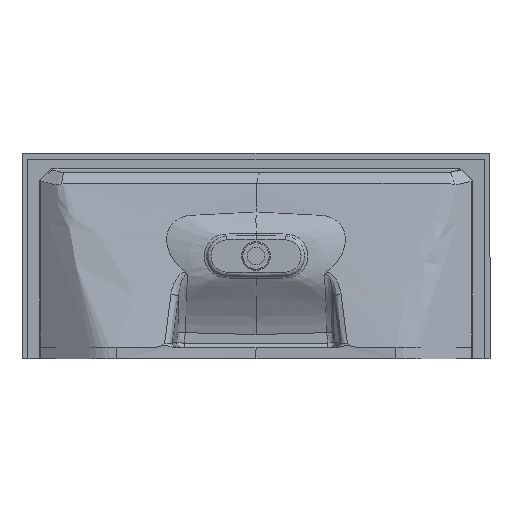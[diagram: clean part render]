
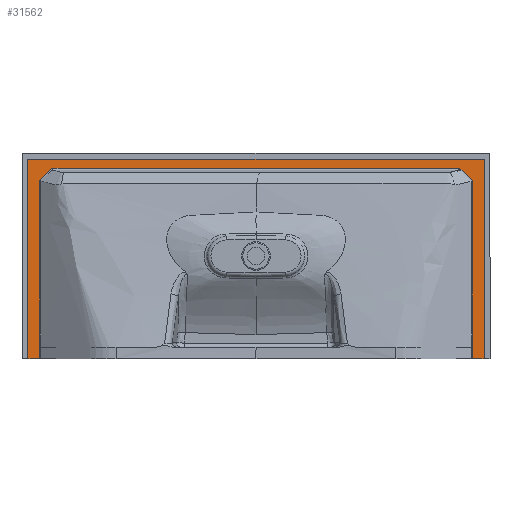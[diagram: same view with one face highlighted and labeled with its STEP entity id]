
A CAD part, front view. The second image highlights one B-rep face of the part: STEP entity #31562.
In plain terms, the highlighted planar face has unit normal (0, -1, 0).
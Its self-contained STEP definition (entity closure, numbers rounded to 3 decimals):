
#143 = CARTESIAN_POINT ( 'NONE',  ( -552.139, 837., 454.352 ) ) ;
#473 = B_SPLINE_CURVE_WITH_KNOTS ( 'NONE', 3,
 ( #17407, #38897, #33490, #33363, #4773, #29622, #17149, #20230, #23461, #10938, #18192, #14974, #38636 ),
 .UNSPECIFIED., .F., .F.,
 ( 4, 3, 3, 3, 4 ),
 ( 0., 0.001, 0.02, 0.033, 0.045 ),
 .UNSPECIFIED. ) ;
#634 = VECTOR ( 'NONE', #29758, 1000. ) ;
#794 = VECTOR ( 'NONE', #8885, 1000. ) ;
#947 = ORIENTED_EDGE ( 'NONE', *, *, #17797, .T. ) ;
#1115 = LINE ( 'NONE', #28471, #8293 ) ;
#1669 = DIRECTION ( 'NONE',  ( 1., 0., 0. ) ) ;
#1690 = ORIENTED_EDGE ( 'NONE', *, *, #21661, .T. ) ;
#1794 = CARTESIAN_POINT ( 'NONE',  ( 520.8, 837., 486.028 ) ) ;
#1816 = B_SPLINE_CURVE_WITH_KNOTS ( 'NONE', 3,
 ( #6973, #19335, #28601, #10176 ),
 .UNSPECIFIED., .F., .F.,
 ( 4, 4 ),
 ( 0., 0.424 ),
 .UNSPECIFIED. ) ;
#2593 = EDGE_LOOP ( 'NONE', ( #11679, #9043, #947, #30676, #16367, #10172, #37983, #16129, #6750, #1690, #3069, #36098 ) ) ;
#3069 = ORIENTED_EDGE ( 'NONE', *, *, #36441, .F. ) ;
#3538 = EDGE_CURVE ( 'NONE', #17796, #8254, #1115, .T. ) ;
#3909 = VERTEX_POINT ( 'NONE', #11508 ) ;
#4123 = VECTOR ( 'NONE', #5563, 1000. ) ;
#4317 = EDGE_CURVE ( 'NONE', #17796, #10597, #22745, .T. ) ;
#4773 = CARTESIAN_POINT ( 'NONE',  ( 525.645, 837., 481.129 ) ) ;
#5147 = CARTESIAN_POINT ( 'NONE',  ( -546.285, 837., 460.303 ) ) ;
#5540 = CARTESIAN_POINT ( 'NONE',  ( -528.271, 837., 478.585 ) ) ;
#5563 = DIRECTION ( 'NONE',  ( 0., 0., 1. ) ) ;
#6177 = CARTESIAN_POINT ( 'NONE',  ( -552.141, 837., 30. ) ) ;
#6649 = EDGE_CURVE ( 'NONE', #22183, #35548, #8786, .T. ) ;
#6750 = ORIENTED_EDGE ( 'NONE', *, *, #10531, .T. ) ;
#6766 = DIRECTION ( 'NONE',  ( 0., -1., 0. ) ) ;
#6973 = CARTESIAN_POINT ( 'NONE',  ( 552.139, 837., 454.307 ) ) ;
#7513 = AXIS2_PLACEMENT_3D ( 'NONE', #15918, #6766, #34296 ) ;
#8228 = CARTESIAN_POINT ( 'NONE',  ( -540.882, 837., 465.789 ) ) ;
#8254 = VERTEX_POINT ( 'NONE', #10611 ) ;
#8293 = VECTOR ( 'NONE', #37746, 1000. ) ;
#8621 = CARTESIAN_POINT ( 'NONE',  ( -551.987, 837., 454.506 ) ) ;
#8786 = LINE ( 'NONE', #23599, #634 ) ;
#8885 = DIRECTION ( 'NONE',  ( 1., 0., 0. ) ) ;
#9043 = ORIENTED_EDGE ( 'NONE', *, *, #3538, .T. ) ;
#10172 = ORIENTED_EDGE ( 'NONE', *, *, #17043, .T. ) ;
#10176 = CARTESIAN_POINT ( 'NONE',  ( 552.141, 837., 30. ) ) ;
#10531 = EDGE_CURVE ( 'NONE', #26886, #24490, #24842, .T. ) ;
#10597 = VERTEX_POINT ( 'NONE', #27302 ) ;
#10611 = CARTESIAN_POINT ( 'NONE',  ( -552.141, 837., 30. ) ) ;
#10781 = VECTOR ( 'NONE', #11775, 1000. ) ;
#10938 = CARTESIAN_POINT ( 'NONE',  ( 544.045, 837., 462.509 ) ) ;
#11274 = FACE_OUTER_BOUND ( 'NONE', #2593, .T. ) ;
#11508 = CARTESIAN_POINT ( 'NONE',  ( 582.5, 837., 510. ) ) ;
#11679 = ORIENTED_EDGE ( 'NONE', *, *, #4317, .F. ) ;
#11703 = CARTESIAN_POINT ( 'NONE',  ( -548.985, 837., 457.559 ) ) ;
#11775 = DIRECTION ( 'NONE',  ( 0., 0., -1. ) ) ;
#12245 = CARTESIAN_POINT ( 'NONE',  ( 582.5, 837., 0. ) ) ;
#13890 = CARTESIAN_POINT ( 'NONE',  ( -597.5, 837., 0. ) ) ;
#13894 = CARTESIAN_POINT ( 'NONE',  ( -552.139, 837., 454.352 ) ) ;
#14418 = CARTESIAN_POINT ( 'NONE',  ( -531.874, 837., 474.929 ) ) ;
#14974 = CARTESIAN_POINT ( 'NONE',  ( 549.442, 837., 457.041 ) ) ;
#15131 = DIRECTION ( 'NONE',  ( -1., 0., 0. ) ) ;
#15918 = CARTESIAN_POINT ( 'NONE',  ( 0., 837., 0. ) ) ;
#16110 = VECTOR ( 'NONE', #30147, 1000. ) ;
#16129 = ORIENTED_EDGE ( 'NONE', *, *, #34000, .T. ) ;
#16367 = ORIENTED_EDGE ( 'NONE', *, *, #6649, .T. ) ;
#16607 = VERTEX_POINT ( 'NONE', #17842 ) ;
#17043 = EDGE_CURVE ( 'NONE', #35548, #38537, #473, .T. ) ;
#17149 = CARTESIAN_POINT ( 'NONE',  ( 534.585, 837., 472.084 ) ) ;
#17407 = CARTESIAN_POINT ( 'NONE',  ( 520.8, 837., 486.028 ) ) ;
#17652 = CARTESIAN_POINT ( 'NONE',  ( -520.931, 837., 486.028 ) ) ;
#17796 = VERTEX_POINT ( 'NONE', #27673 ) ;
#17797 = EDGE_CURVE ( 'NONE', #8254, #32325, #37555, .T. ) ;
#17842 = CARTESIAN_POINT ( 'NONE',  ( 552.141, 837., 30. ) ) ;
#18192 = CARTESIAN_POINT ( 'NONE',  ( 546.744, 837., 459.776 ) ) ;
#18807 = CARTESIAN_POINT ( 'NONE',  ( -552.125, 837., 312.901 ) ) ;
#19335 = CARTESIAN_POINT ( 'NONE',  ( 552.125, 837., 312.871 ) ) ;
#20201 = CARTESIAN_POINT ( 'NONE',  ( 0., 837., 510. ) ) ;
#20230 = CARTESIAN_POINT ( 'NONE',  ( 537.738, 837., 468.892 ) ) ;
#20557 = EDGE_CURVE ( 'NONE', #32325, #22183, #38365, .T. ) ;
#20598 = CARTESIAN_POINT ( 'NONE',  ( -551.684, 837., 454.814 ) ) ;
#21104 = CARTESIAN_POINT ( 'NONE',  ( -582.5, 837., 510. ) ) ;
#21661 = EDGE_CURVE ( 'NONE', #24490, #3909, #37779, .T. ) ;
#22183 = VERTEX_POINT ( 'NONE', #27839 ) ;
#22745 = LINE ( 'NONE', #24539, #25641 ) ;
#23177 = CARTESIAN_POINT ( 'NONE',  ( -552.139, 837., 454.352 ) ) ;
#23461 = CARTESIAN_POINT ( 'NONE',  ( 540.893, 837., 465.701 ) ) ;
#23599 = CARTESIAN_POINT ( 'NONE',  ( 0., 837., 486.028 ) ) ;
#23856 = CARTESIAN_POINT ( 'NONE',  ( -582.5, 837., 0. ) ) ;
#23966 = CARTESIAN_POINT ( 'NONE',  ( -551.836, 837., 454.66 ) ) ;
#24269 = EDGE_CURVE ( 'NONE', #10597, #38839, #32953, .T. ) ;
#24490 = VERTEX_POINT ( 'NONE', #12245 ) ;
#24539 = CARTESIAN_POINT ( 'NONE',  ( 597.5, 837., 0. ) ) ;
#24842 = LINE ( 'NONE', #13890, #794 ) ;
#25224 = LINE ( 'NONE', #20201, #27133 ) ;
#25641 = VECTOR ( 'NONE', #15131, 1000. ) ;
#26053 = EDGE_CURVE ( 'NONE', #38537, #16607, #1816, .T. ) ;
#26643 = CARTESIAN_POINT ( 'NONE',  ( 552.139, 837., 454.307 ) ) ;
#26860 = CARTESIAN_POINT ( 'NONE',  ( 552.141, 837., 0. ) ) ;
#26886 = VERTEX_POINT ( 'NONE', #38325 ) ;
#27133 = VECTOR ( 'NONE', #1669, 1000. ) ;
#27302 = CARTESIAN_POINT ( 'NONE',  ( -582.5, 837., 0. ) ) ;
#27673 = CARTESIAN_POINT ( 'NONE',  ( -552.141, 837., 0. ) ) ;
#27839 = CARTESIAN_POINT ( 'NONE',  ( -520.931, 837., 486.028 ) ) ;
#28471 = CARTESIAN_POINT ( 'NONE',  ( -552.141, 837., 30. ) ) ;
#28601 = CARTESIAN_POINT ( 'NONE',  ( 552.158, 837., 171.436 ) ) ;
#29622 = CARTESIAN_POINT ( 'NONE',  ( 530.115, 837., 476.607 ) ) ;
#29758 = DIRECTION ( 'NONE',  ( 1., 0., 0. ) ) ;
#29999 = CARTESIAN_POINT ( 'NONE',  ( -524.667, 837., 482.24 ) ) ;
#30147 = DIRECTION ( 'NONE',  ( 0., 0., 1. ) ) ;
#30246 = CARTESIAN_POINT ( 'NONE',  ( -523.422, 837., 483.502 ) ) ;
#30676 = ORIENTED_EDGE ( 'NONE', *, *, #20557, .T. ) ;
#31562 = ADVANCED_FACE ( 'NONE', ( #11274 ), #34438, .T. ) ;
#32325 = VERTEX_POINT ( 'NONE', #23177 ) ;
#32682 = CARTESIAN_POINT ( 'NONE',  ( -522.177, 837., 484.765 ) ) ;
#32953 = LINE ( 'NONE', #23856, #4123 ) ;
#32975 = CARTESIAN_POINT ( 'NONE',  ( 582.5, 837., 0. ) ) ;
#33207 = CARTESIAN_POINT ( 'NONE',  ( -538.179, 837., 468.53 ) ) ;
#33363 = CARTESIAN_POINT ( 'NONE',  ( 521.174, 837., 485.65 ) ) ;
#33490 = CARTESIAN_POINT ( 'NONE',  ( 521.049, 837., 485.776 ) ) ;
#34000 = EDGE_CURVE ( 'NONE', #16607, #26886, #34317, .T. ) ;
#34296 = DIRECTION ( 'NONE',  ( 0., 0., -1. ) ) ;
#34317 = LINE ( 'NONE', #26860, #10781 ) ;
#34438 = PLANE ( 'NONE',  #7513 ) ;
#35548 = VERTEX_POINT ( 'NONE', #1794 ) ;
#36043 = CARTESIAN_POINT ( 'NONE',  ( -535.477, 837., 471.273 ) ) ;
#36098 = ORIENTED_EDGE ( 'NONE', *, *, #24269, .F. ) ;
#36441 = EDGE_CURVE ( 'NONE', #38839, #3909, #25224, .T. ) ;
#37216 = CARTESIAN_POINT ( 'NONE',  ( -552.158, 837., 171.451 ) ) ;
#37555 = B_SPLINE_CURVE_WITH_KNOTS ( 'NONE', 3,
 ( #6177, #37216, #18807, #143 ),
 .UNSPECIFIED., .F., .F.,
 ( 4, 4 ),
 ( 0., 0.424 ),
 .UNSPECIFIED. ) ;
#37746 = DIRECTION ( 'NONE',  ( 0., 0., 1. ) ) ;
#37779 = LINE ( 'NONE', #32975, #16110 ) ;
#37983 = ORIENTED_EDGE ( 'NONE', *, *, #26053, .T. ) ;
#38325 = CARTESIAN_POINT ( 'NONE',  ( 552.141, 837., 0. ) ) ;
#38365 = B_SPLINE_CURVE_WITH_KNOTS ( 'NONE', 3,
 ( #13894, #8621, #23966, #20598, #11703, #5147, #39401, #8228, #33207, #36043, #14418, #5540, #29999, #30246, #32682, #17652 ),
 .UNSPECIFIED., .F., .F.,
 ( 4, 3, 3, 3, 3, 4 ),
 ( 0., 0.001, 0.012, 0.024, 0.039, 0.044 ),
 .UNSPECIFIED. ) ;
#38537 = VERTEX_POINT ( 'NONE', #26643 ) ;
#38636 = CARTESIAN_POINT ( 'NONE',  ( 552.139, 837., 454.307 ) ) ;
#38839 = VERTEX_POINT ( 'NONE', #21104 ) ;
#38897 = CARTESIAN_POINT ( 'NONE',  ( 520.924, 837., 485.902 ) ) ;
#39401 = CARTESIAN_POINT ( 'NONE',  ( -543.583, 837., 463.046 ) ) ;
